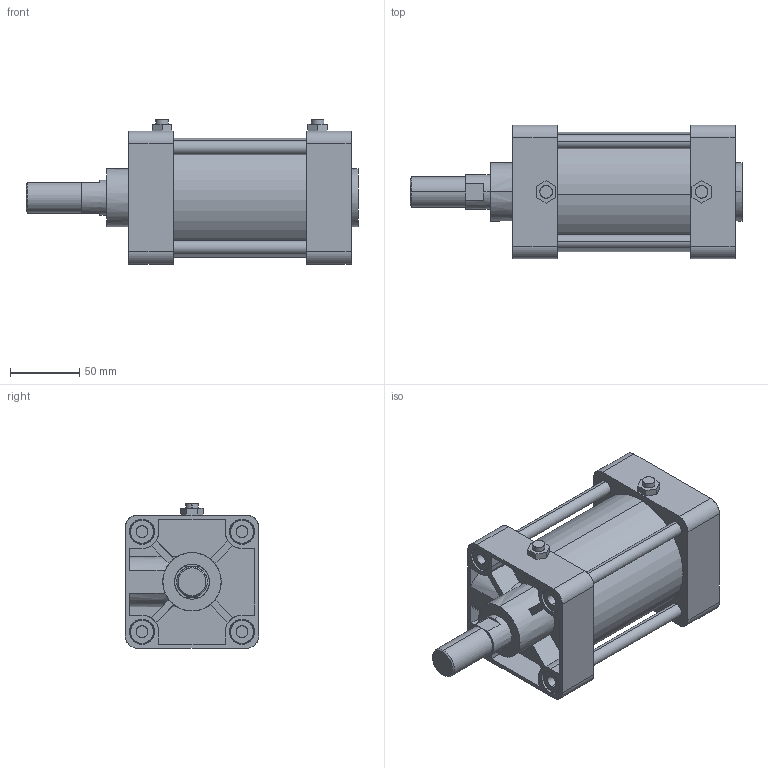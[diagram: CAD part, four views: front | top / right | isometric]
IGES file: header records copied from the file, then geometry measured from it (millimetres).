
Start section: SolidWorks IGES file using analytic representation for surfaces
Global section: file name: C:\Users\Toshiba\Desktop\KG2-80-50-N.IGS; native system: SolidWorks 2014; preprocessor: SolidWorks 2014; author: Toshiba; date: 160401.162028; units: millimetre
Bounding box: 239 x 96 x 104.3 mm (x, y, z)
Surface area: 170860.5 mm2 (no closed solid volume)
Topology: 0 solids, 0 shells, 309 faces, 4758 edges, 4754 vertices
Faces by surface type: bspline 165, revolution 144
